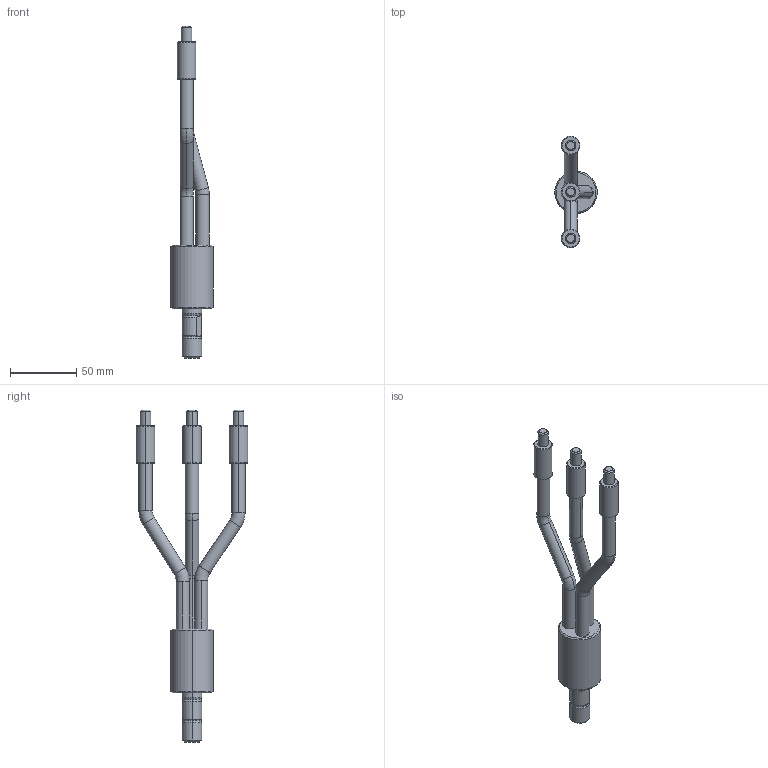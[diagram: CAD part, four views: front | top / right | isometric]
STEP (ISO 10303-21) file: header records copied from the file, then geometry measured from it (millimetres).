
FILE_DESCRIPTION (( 'STEP AP203' ), '1' );
FILE_NAME ('M3G4-1000S_A06026A0100101A-001.STEP', '2014-09-16T08:47:05', ( '' ), ( '' ), 'SwSTEP 2.0', 'SolidWorks 2011', '' );
FILE_SCHEMA (( 'CONFIG_CONTROL_DESIGN' ));
Length unit declared in the file: millimetre
Products named in the file (1): M3G4-1000S_A06026A0100101A-001
Bounding box: 32 x 84 x 250 mm (x, y, z)
Volume: 90360.3 mm3; surface area: 25300.7 mm2
Topology: 1 solids, 1 shells, 98 faces, 207 edges, 121 vertices
Faces by surface type: cylinder 39, cone 24, torus 20, plane 13, sphere 2
Entity records: 2768 total; most frequent: DIRECTION 539, CARTESIAN_POINT 485, ORIENTED_EDGE 414, AXIS2_PLACEMENT_3D 237, EDGE_CURVE 207, CIRCLE 138, VERTEX_POINT 121, EDGE_LOOP 108
